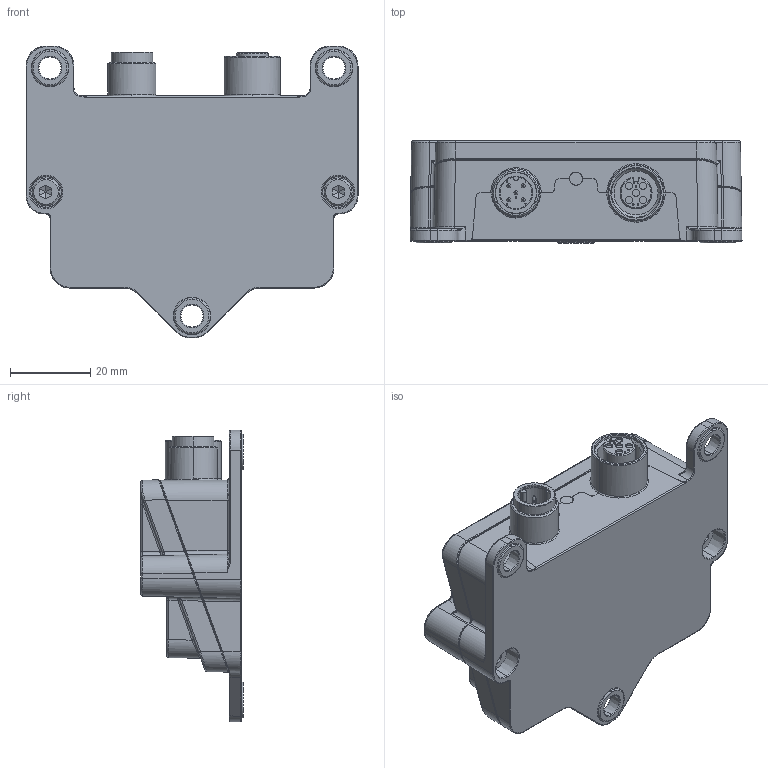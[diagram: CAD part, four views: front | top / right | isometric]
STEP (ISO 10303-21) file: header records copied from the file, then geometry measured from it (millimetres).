
FILE_DESCRIPTION (( 'STEP AP214' ), '1' );
FILE_NAME ('108640~01.STEP', '2023-10-05T08:38:05', ( '' ), ( '' ), 'SwSTEP 2.0', 'SolidWorks 2021', '' );
FILE_SCHEMA (( 'AUTOMOTIVE_DESIGN' ));
Length unit declared in the file: millimetre
Products named in the file (1): 108640~01
Bounding box: 82.99 x 25.57 x 72.99 mm (x, y, z)
Volume: 78306.8 mm3; surface area: 17065.1 mm2
Topology: 1 solids, 5 shells, 914 faces, 2333 edges, 1456 vertices
Faces by surface type: plane 460, cylinder 213, bspline 151, torus 45, cone 43, sphere 2
Entity records: 40146 total; most frequent: CARTESIAN_POINT 9355, ORIENTED_EDGE 4638, DIRECTION 3972, EDGE_CURVE 2319, VERTEX_POINT 1456, LINE 1420, VECTOR 1420, AXIS2_PLACEMENT_3D 1276
